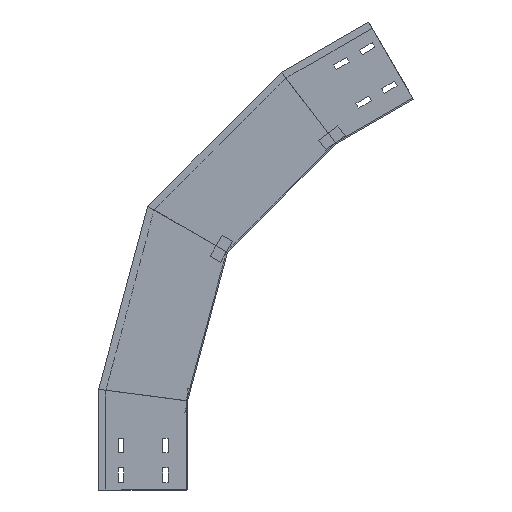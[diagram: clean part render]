
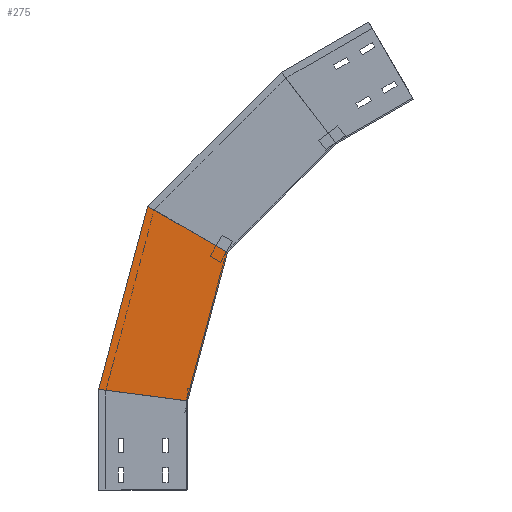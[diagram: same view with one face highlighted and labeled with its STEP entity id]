
A CAD part, left-side view. The second image highlights one B-rep face of the part: STEP entity #275.
In plain terms, the highlighted planar face has unit normal (-1, 0, 0) as drawn and (1, 0, 0) by its records, which use the part's own axes.
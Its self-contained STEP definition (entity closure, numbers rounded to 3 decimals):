
#12 = VERTEX_POINT ( 'NONE', #1076 ) ;
#16 = AXIS2_PLACEMENT_3D ( 'NONE', #1182, #1872, #2093 ) ;
#123 = CARTESIAN_POINT ( 'NONE',  ( 0., -158.073, 703.345 ) ) ;
#143 = FACE_OUTER_BOUND ( 'NONE', #562, .T. ) ;
#191 = ORIENTED_EDGE ( 'NONE', *, *, #1346, .F. ) ;
#269 = CARTESIAN_POINT ( 'NONE',  ( 0., -35.701, 368.842 ) ) ;
#275 = ADVANCED_FACE ( 'NONE', ( #143 ), #2208, .T. ) ;
#544 = VECTOR ( 'NONE', #786, 1000. ) ;
#562 = EDGE_LOOP ( 'NONE', ( #2069, #1052, #191, #2107 ) ) ;
#608 = VERTEX_POINT ( 'NONE', #980 ) ;
#786 = DIRECTION ( 'NONE',  ( 0., -0.707, 0.707 ) ) ;
#862 = DIRECTION ( 'NONE',  ( 0., -0.707, 0.707 ) ) ;
#874 = VECTOR ( 'NONE', #862, 1000. ) ;
#967 = LINE ( 'NONE', #2124, #1717 ) ;
#980 = CARTESIAN_POINT ( 'NONE',  ( 0., -250.175, 583.315 ) ) ;
#1024 = CARTESIAN_POINT ( 'NONE',  ( 0., 70.365, 474.908 ) ) ;
#1052 = ORIENTED_EDGE ( 'NONE', *, *, #1377, .T. ) ;
#1076 = CARTESIAN_POINT ( 'NONE',  ( 0., 67.452, 477.821 ) ) ;
#1134 = DIRECTION ( 'NONE',  ( 0., -0.866, -0.5 ) ) ;
#1182 = CARTESIAN_POINT ( 'NONE',  ( 0., -35.701, 368.842 ) ) ;
#1210 = VERTEX_POINT ( 'NONE', #123 ) ;
#1270 = CARTESIAN_POINT ( 'NONE',  ( 0., -274.276, 551.906 ) ) ;
#1346 = EDGE_CURVE ( 'NONE', #1672, #608, #1965, .T. ) ;
#1377 = EDGE_CURVE ( 'NONE', #1210, #608, #2168, .T. ) ;
#1672 = VERTEX_POINT ( 'NONE', #1902 ) ;
#1717 = VECTOR ( 'NONE', #1134, 1000. ) ;
#1862 = EDGE_CURVE ( 'NONE', #12, #1672, #967, .T. ) ;
#1872 = DIRECTION ( 'NONE',  ( 1., 0., 0. ) ) ;
#1902 = CARTESIAN_POINT ( 'NONE',  ( 0., -67.034, 400.175 ) ) ;
#1965 = LINE ( 'NONE', #269, #544 ) ;
#1973 = DIRECTION ( 'NONE',  ( 0., -0.609, -0.793 ) ) ;
#2069 = ORIENTED_EDGE ( 'NONE', *, *, #2223, .T. ) ;
#2093 = DIRECTION ( 'NONE',  ( 0., 0., -1. ) ) ;
#2107 = ORIENTED_EDGE ( 'NONE', *, *, #1862, .F. ) ;
#2124 = CARTESIAN_POINT ( 'NONE',  ( 0., -129.979, 363.834 ) ) ;
#2168 = LINE ( 'NONE', #1270, #2196 ) ;
#2196 = VECTOR ( 'NONE', #1973, 1000. ) ;
#2208 = PLANE ( 'NONE',  #16 ) ;
#2219 = LINE ( 'NONE', #1024, #874 ) ;
#2223 = EDGE_CURVE ( 'NONE', #12, #1210, #2219, .T. ) ;
